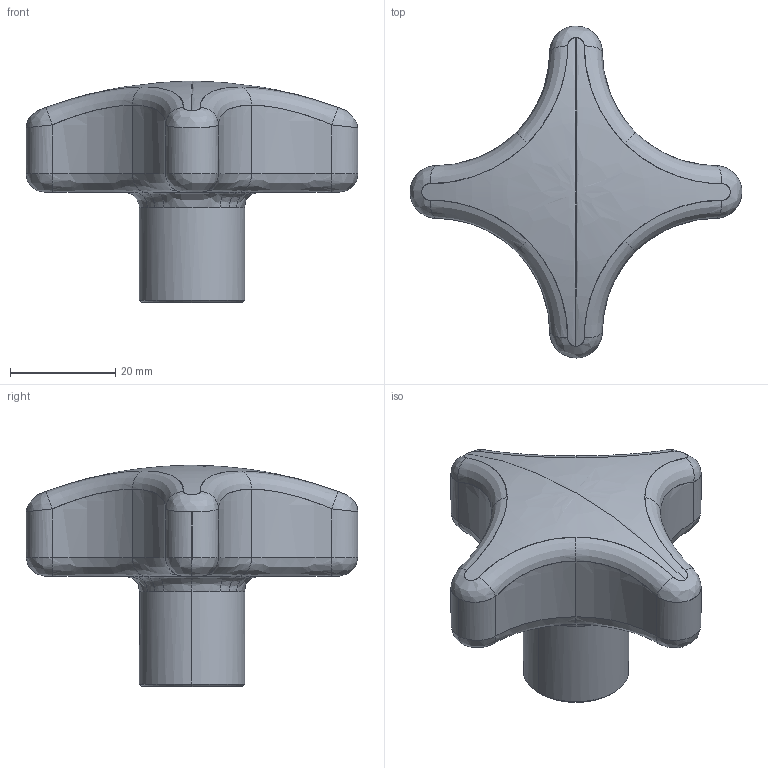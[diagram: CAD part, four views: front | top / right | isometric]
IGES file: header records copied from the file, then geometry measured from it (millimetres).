
Start section: SolidWorks IGES file using analytic representation for surfaces
Global section: file name: X:\11_SW2020-Inv2020\00_全2021-11新製品まで\c\CK63R-SUS\ck63r-sus.IGS; native system: SolidWorks 2020; preprocessor: SolidWorks 2020; author: ImaoCorp; date: 211026.083137; units: millimetre
Bounding box: 63 x 63 x 42 mm (x, y, z)
Surface area: 8043.5 mm2 (no closed solid volume)
Topology: 0 solids, 0 shells, 66 faces, 722 edges, 721 vertices
Faces by surface type: bspline 45, revolution 21
